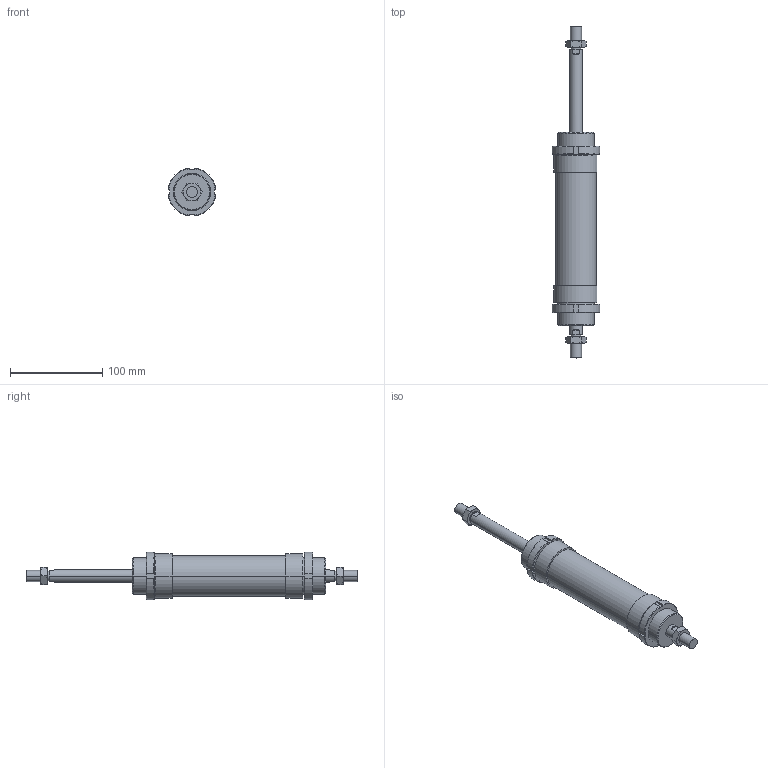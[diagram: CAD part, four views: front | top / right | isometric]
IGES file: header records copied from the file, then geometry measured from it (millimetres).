
Global section: file name: No Iges File Name specified; native system: AutoDesk Inventor R6.0; preprocessor: AutoDesk Inventor Iges Exporter R6.0; author: No Author specified; organization: No Organization specified; date: 20030403.072814; units: millimetre
Bounding box: 51.76 x 359 x 51.76 mm (x, y, z)
Volume: 351512.5 mm3; surface area: 69131.6 mm2
Topology: 6 solids, 6 shells, 182 faces, 424 edges, 264 vertices
Faces by surface type: plane 66, cone 52, bspline 30, cylinder 28, revolution 6
